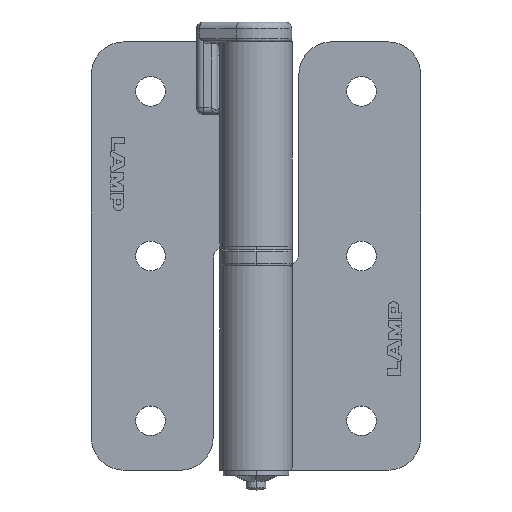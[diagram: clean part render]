
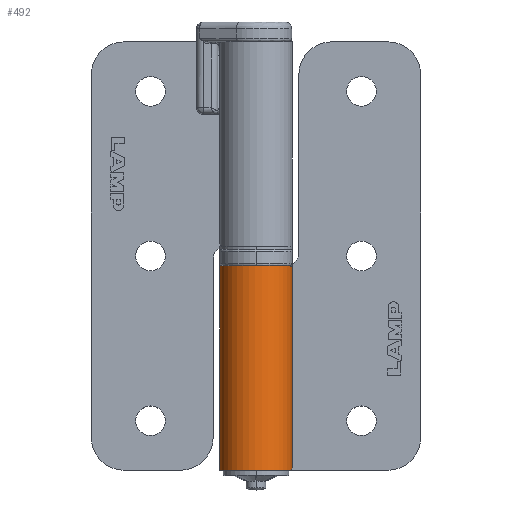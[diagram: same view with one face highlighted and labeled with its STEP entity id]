
A CAD part, top view. The second image highlights one B-rep face of the part: STEP entity #492.
In plain terms, the highlighted cylindrical face has radius 5.5 mm (diameter 11 mm), a partial arc.
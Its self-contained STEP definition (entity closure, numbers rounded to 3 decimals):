
#234 = CARTESIAN_POINT ( 'NONE',  ( -5.529, -238.436, 6.619 ) ) ;
#492 = ADVANCED_FACE ( 'NONE', ( #15583 ), #7173, .T. ) ;
#792 = CARTESIAN_POINT ( 'NONE',  ( -36.066, -238.517, 6.106 ) ) ;
#878 = CARTESIAN_POINT ( 'NONE',  ( -35.639, -238.548, 5.5 ) ) ;
#893 = B_SPLINE_CURVE_WITH_KNOTS ( 'NONE', 3,
 ( #4505, #15392, #13849, #4588, #234, #11129, #8429, #5785, #16756, #1509 ),
 .UNSPECIFIED., .F., .F.,
 ( 4, 2, 2, 2, 4 ),
 ( 0., 0.001, 0.001, 0.002, 0.002 ),
 .UNSPECIFIED. ) ;
#1509 = CARTESIAN_POINT ( 'NONE',  ( -6.167, -238.548, 5.5 ) ) ;
#1666 = CARTESIAN_POINT ( 'NONE',  ( -5.403, -233.048, 5.5 ) ) ;
#1888 = ORIENTED_EDGE ( 'NONE', *, *, #9290, .F. ) ;
#1942 = LINE ( 'NONE', #8525, #10677 ) ;
#2178 = ORIENTED_EDGE ( 'NONE', *, *, #10064, .F. ) ;
#2240 = CARTESIAN_POINT ( 'NONE',  ( -36.403, -238.171, 7.5 ) ) ;
#2327 = CARTESIAN_POINT ( 'NONE',  ( -35.874, -238.542, 5.789 ) ) ;
#2952 = VERTEX_POINT ( 'NONE', #8410 ) ;
#3030 = ORIENTED_EDGE ( 'NONE', *, *, #10611, .F. ) ;
#4226 = LINE ( 'NONE', #8143, #9285 ) ;
#4309 = CARTESIAN_POINT ( 'NONE',  ( -36.403, -233.048, 5.5 ) ) ;
#4505 = CARTESIAN_POINT ( 'NONE',  ( -5.403, -238.171, 7.5 ) ) ;
#4588 = CARTESIAN_POINT ( 'NONE',  ( -5.481, -238.396, 6.798 ) ) ;
#4985 = CARTESIAN_POINT ( 'NONE',  ( -36.276, -238.436, 6.618 ) ) ;
#5405 = CARTESIAN_POINT ( 'NONE',  ( -6.167, -238.548, 5.5 ) ) ;
#5589 = ORIENTED_EDGE ( 'NONE', *, *, #10802, .T. ) ;
#5653 = ORIENTED_EDGE ( 'NONE', *, *, #6730, .F. ) ;
#5717 = CARTESIAN_POINT ( 'NONE',  ( -36.403, -233.048, 5.5 ) ) ;
#5785 = CARTESIAN_POINT ( 'NONE',  ( -5.93, -238.542, 5.792 ) ) ;
#6217 = CARTESIAN_POINT ( 'NONE',  ( -5.403, -233.048, 0. ) ) ;
#6614 = VERTEX_POINT ( 'NONE', #12211 ) ;
#6623 = CARTESIAN_POINT ( 'NONE',  ( -35.764, -238.548, 5.64 ) ) ;
#6699 = VERTEX_POINT ( 'NONE', #5405 ) ;
#6730 = EDGE_CURVE ( 'NONE', #2952, #7802, #11483, .T. ) ;
#7141 = DIRECTION ( 'NONE',  ( -1., 0., 0. ) ) ;
#7173 = CYLINDRICAL_SURFACE ( 'NONE', #8074, 5.5 ) ;
#7226 = DIRECTION ( 'NONE',  ( 0., 0., -1. ) ) ;
#7422 = DIRECTION ( 'NONE',  ( -1., 0., 0. ) ) ;
#7802 = VERTEX_POINT ( 'NONE', #8769 ) ;
#8074 = AXIS2_PLACEMENT_3D ( 'NONE', #5717, #16780, #15501 ) ;
#8143 = CARTESIAN_POINT ( 'NONE',  ( -3.903, -233.048, 0. ) ) ;
#8408 = DIRECTION ( 'NONE',  ( -1., 0., 0. ) ) ;
#8410 = CARTESIAN_POINT ( 'NONE',  ( -36.403, -238.171, 7.5 ) ) ;
#8429 = CARTESIAN_POINT ( 'NONE',  ( -5.738, -238.516, 6.11 ) ) ;
#8525 = CARTESIAN_POINT ( 'NONE',  ( -20.903, -238.548, 5.5 ) ) ;
#8769 = CARTESIAN_POINT ( 'NONE',  ( -36.403, -233.048, 0. ) ) ;
#9173 = CARTESIAN_POINT ( 'NONE',  ( -36.324, -238.397, 6.793 ) ) ;
#9285 = VECTOR ( 'NONE', #13745, 1000. ) ;
#9290 = EDGE_CURVE ( 'NONE', #6699, #6614, #1942, .T. ) ;
#10064 = EDGE_CURVE ( 'NONE', #6614, #2952, #15827, .T. ) ;
#10611 = EDGE_CURVE ( 'NONE', #7802, #15089, #4226, .T. ) ;
#10677 = VECTOR ( 'NONE', #7422, 1000. ) ;
#10802 = EDGE_CURVE ( 'NONE', #16906, #15089, #14188, .T. ) ;
#10894 = AXIS2_PLACEMENT_3D ( 'NONE', #4309, #8408, #14004 ) ;
#11129 = CARTESIAN_POINT ( 'NONE',  ( -5.658, -238.496, 6.276 ) ) ;
#11416 = EDGE_LOOP ( 'NONE', ( #1888, #12643, #5589, #3030, #5653, #2178 ) ) ;
#11483 = CIRCLE ( 'NONE', #10894, 5.5 ) ;
#11875 = CARTESIAN_POINT ( 'NONE',  ( -36.147, -238.496, 6.275 ) ) ;
#12211 = CARTESIAN_POINT ( 'NONE',  ( -35.639, -238.548, 5.5 ) ) ;
#12395 = EDGE_CURVE ( 'NONE', #16906, #6699, #893, .T. ) ;
#12643 = ORIENTED_EDGE ( 'NONE', *, *, #12395, .F. ) ;
#12744 = AXIS2_PLACEMENT_3D ( 'NONE', #1666, #7141, #7226 ) ;
#13253 = CARTESIAN_POINT ( 'NONE',  ( -5.403, -238.171, 7.5 ) ) ;
#13745 = DIRECTION ( 'NONE',  ( 1., 0., 0. ) ) ;
#13849 = CARTESIAN_POINT ( 'NONE',  ( -5.418, -238.298, 7.15 ) ) ;
#14004 = DIRECTION ( 'NONE',  ( 0., 0., -1. ) ) ;
#14188 = CIRCLE ( 'NONE', #12744, 5.5 ) ;
#15089 = VERTEX_POINT ( 'NONE', #6217 ) ;
#15392 = CARTESIAN_POINT ( 'NONE',  ( -5.403, -238.24, 7.325 ) ) ;
#15501 = DIRECTION ( 'NONE',  ( 0., 0., -1. ) ) ;
#15583 = FACE_OUTER_BOUND ( 'NONE', #11416, .T. ) ;
#15827 = B_SPLINE_CURVE_WITH_KNOTS ( 'NONE', 3,
 ( #878, #6623, #2327, #792, #11875, #4985, #9173, #16048, #16221, #2240 ),
 .UNSPECIFIED., .F., .F.,
 ( 4, 2, 2, 2, 4 ),
 ( 0., 0.001, 0.001, 0.002, 0.002 ),
 .UNSPECIFIED. ) ;
#16048 = CARTESIAN_POINT ( 'NONE',  ( -36.387, -238.299, 7.146 ) ) ;
#16221 = CARTESIAN_POINT ( 'NONE',  ( -36.403, -238.24, 7.325 ) ) ;
#16756 = CARTESIAN_POINT ( 'NONE',  ( -6.042, -238.548, 5.64 ) ) ;
#16780 = DIRECTION ( 'NONE',  ( 1., 0., 0. ) ) ;
#16906 = VERTEX_POINT ( 'NONE', #13253 ) ;
